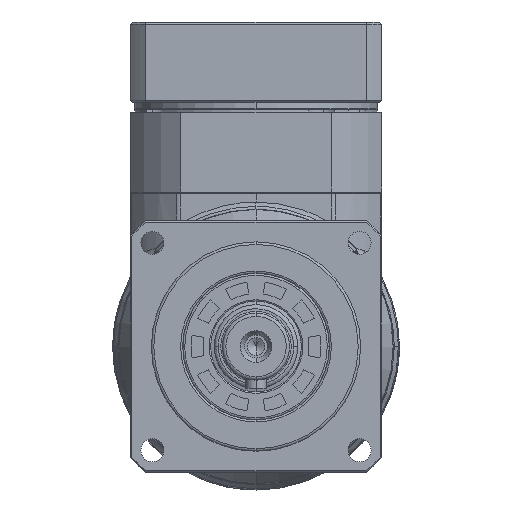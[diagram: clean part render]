
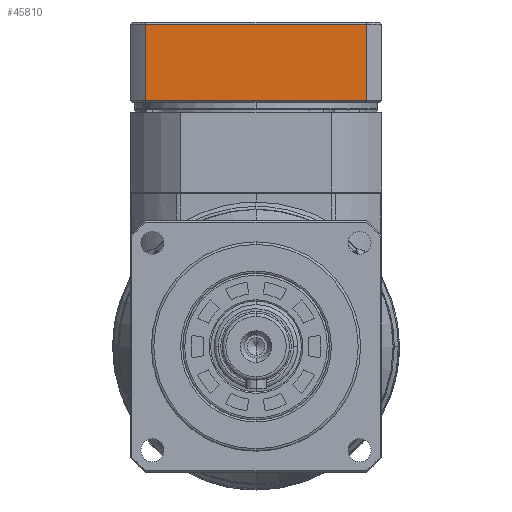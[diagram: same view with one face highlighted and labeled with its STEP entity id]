
A CAD part, left-side view. The second image highlights one B-rep face of the part: STEP entity #45810.
In plain terms, the highlighted planar face has unit normal (-1, 0, 0).
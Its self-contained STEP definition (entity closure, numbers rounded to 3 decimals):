
#1339 = VECTOR ( 'NONE', #18841, 1000. ) ;
#2696 = VECTOR ( 'NONE', #17778, 1000. ) ;
#5049 = CARTESIAN_POINT ( 'NONE',  ( -66.465, -0.462, 105.331 ) ) ;
#8171 = CARTESIAN_POINT ( 'NONE',  ( -66.465, -53.377, 129.831 ) ) ;
#8368 = DIRECTION ( 'NONE',  ( 0., 0., 1. ) ) ;
#10295 = LINE ( 'NONE', #19357, #44326 ) ;
#12185 = FACE_OUTER_BOUND ( 'NONE', #43033, .T. ) ;
#14086 = DIRECTION ( 'NONE',  ( 0., 0., 1. ) ) ;
#17510 = LINE ( 'NONE', #18056, #2696 ) ;
#17778 = DIRECTION ( 'NONE',  ( 0., 0., 1. ) ) ;
#18056 = CARTESIAN_POINT ( 'NONE',  ( -66.465, -53.377, 54.331 ) ) ;
#18841 = DIRECTION ( 'NONE',  ( 0., 1., 0. ) ) ;
#19357 = CARTESIAN_POINT ( 'NONE',  ( -66.465, -26.92, 111.631 ) ) ;
#20733 = EDGE_CURVE ( 'NONE', #49872, #39074, #10295, .T. ) ;
#21212 = AXIS2_PLACEMENT_3D ( 'NONE', #25612, #34097, #8368 ) ;
#22372 = ORIENTED_EDGE ( 'NONE', *, *, #34072, .F. ) ;
#23404 = ORIENTED_EDGE ( 'NONE', *, *, #55297, .T. ) ;
#23817 = LINE ( 'NONE', #46009, #1339 ) ;
#25612 = CARTESIAN_POINT ( 'NONE',  ( -66.465, -0.462, 54.331 ) ) ;
#30452 = EDGE_CURVE ( 'NONE', #39074, #42830, #17510, .T. ) ;
#30975 = VECTOR ( 'NONE', #14086, 1000. ) ;
#34072 = EDGE_CURVE ( 'NONE', #49872, #37042, #36314, .T. ) ;
#34097 = DIRECTION ( 'NONE',  ( -1., 0., 0. ) ) ;
#36314 = LINE ( 'NONE', #5049, #30975 ) ;
#36646 = CARTESIAN_POINT ( 'NONE',  ( -66.465, -0.462, 129.831 ) ) ;
#37042 = VERTEX_POINT ( 'NONE', #36646 ) ;
#39074 = VERTEX_POINT ( 'NONE', #49228 ) ;
#41979 = ORIENTED_EDGE ( 'NONE', *, *, #30452, .T. ) ;
#42830 = VERTEX_POINT ( 'NONE', #8171 ) ;
#43033 = EDGE_LOOP ( 'NONE', ( #23404, #22372, #45572, #41979 ) ) ;
#43141 = PLANE ( 'NONE',  #21212 ) ;
#44326 = VECTOR ( 'NONE', #45664, 1000. ) ;
#45572 = ORIENTED_EDGE ( 'NONE', *, *, #20733, .T. ) ;
#45664 = DIRECTION ( 'NONE',  ( 0., -1., 0. ) ) ;
#45810 = ADVANCED_FACE ( 'NONE', ( #12185 ), #43141, .T. ) ;
#46009 = CARTESIAN_POINT ( 'NONE',  ( -66.465, -0.462, 129.831 ) ) ;
#49228 = CARTESIAN_POINT ( 'NONE',  ( -66.465, -53.377, 111.631 ) ) ;
#49872 = VERTEX_POINT ( 'NONE', #52001 ) ;
#52001 = CARTESIAN_POINT ( 'NONE',  ( -66.465, -0.462, 111.631 ) ) ;
#55297 = EDGE_CURVE ( 'NONE', #42830, #37042, #23817, .T. ) ;
